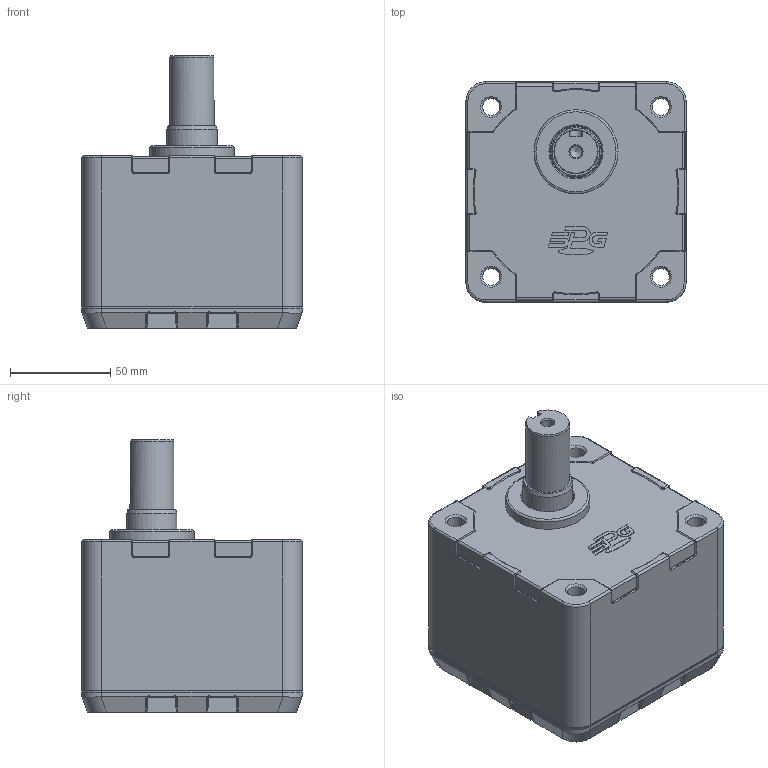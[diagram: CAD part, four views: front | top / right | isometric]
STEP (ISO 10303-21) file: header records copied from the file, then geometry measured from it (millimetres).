
FILE_DESCRIPTION((''),'2;1');
FILE_NAME('C:\Documents and Settings\Administrator\바탕 화면\BLDC 3D FILE\GEAR HEAD ASS''Y\60\XTG10100K~XTG10200K.stp','2014-06-19T12:48:57',('kdhkdh'),(''),'Autodesk Inventor 2011','Autodesk Inventor 2011','');
FILE_SCHEMA(('AUTOMOTIVE_DESIGN { 1 0 10303 214 1 1 1 1 }'));
Length unit declared in the file: millimetre
Products named in the file (1): 부품6
Bounding box: 110 x 110 x 136 mm (x, y, z)
Volume: 758966.5 mm3; surface area: 102296 mm2
Topology: 1 solids, 1 shells, 479 faces, 1192 edges, 739 vertices
Faces by surface type: cylinder 184, plane 155, torus 60, bspline 53, cone 27
Full cylindrical faces by diameter (mm): 4 x4, 4.5 x4, 6 x1, 8 x4, 8.5 x4, 9.5 x4, 13 x1, 22 x1, 25 x1, 26 x1, 42 x1, 94 x1
Entity records: 15793 total; most frequent: CARTESIAN_POINT 4537, DIRECTION 2474, ORIENTED_EDGE 2238, EDGE_CURVE 1119, AXIS2_PLACEMENT_3D 988, VERTEX_POINT 720, EDGE_LOOP 565, VECTOR 498
